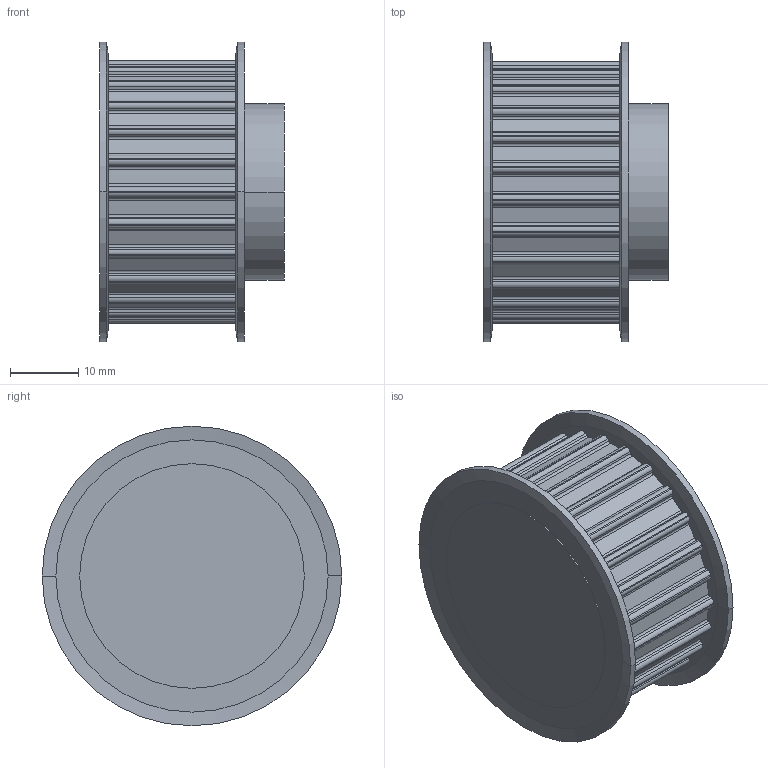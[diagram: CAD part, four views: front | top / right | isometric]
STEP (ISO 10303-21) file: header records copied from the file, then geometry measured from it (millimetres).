
FILE_DESCRIPTION( ( '' ), '1' );
FILE_NAME( 'C:/Users/Stangenbergd/Documents/CAD_Step/1/16632500.stp', '2021-10-19T09:36:23', ( '' ), ( '' ), ' ', ' ', ' ' );
FILE_SCHEMA( ( 'CONFIG_CONTROL_DESIGN' ) );
Length unit declared in the file: millimetre
Products named in the file (1): 1
Bounding box: 27.13 x 44 x 44 mm (x, y, z)
Volume: 26697.2 mm3; surface area: 7419.5 mm2
Topology: 1 solids, 1 shells, 226 faces, 649 edges, 430 vertices
Faces by surface type: cylinder 136, plane 82, cone 8
Entity records: 7553 total; most frequent: DIRECTION 1383, CARTESIAN_POINT 1306, ORIENTED_EDGE 1298, EDGE_CURVE 649, AXIS2_PLACEMENT_3D 507, VERTEX_POINT 430, LINE 369, VECTOR 369
